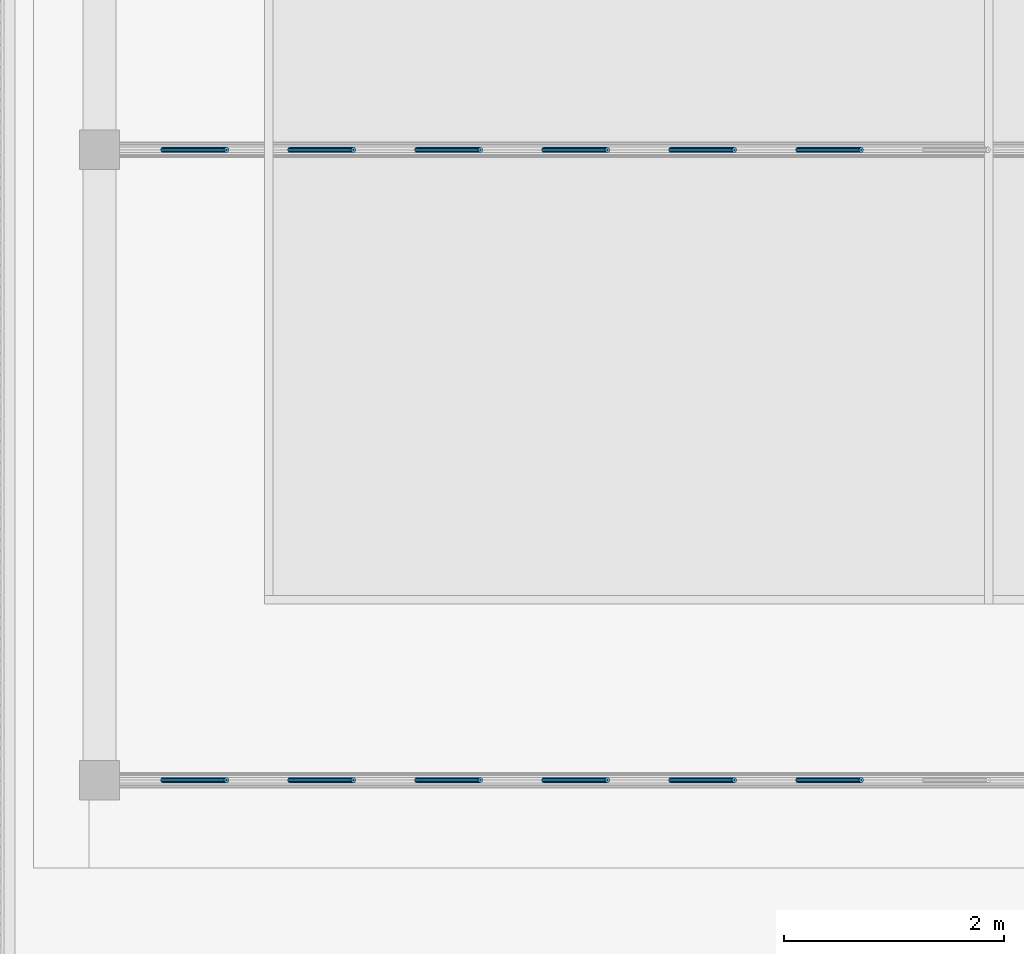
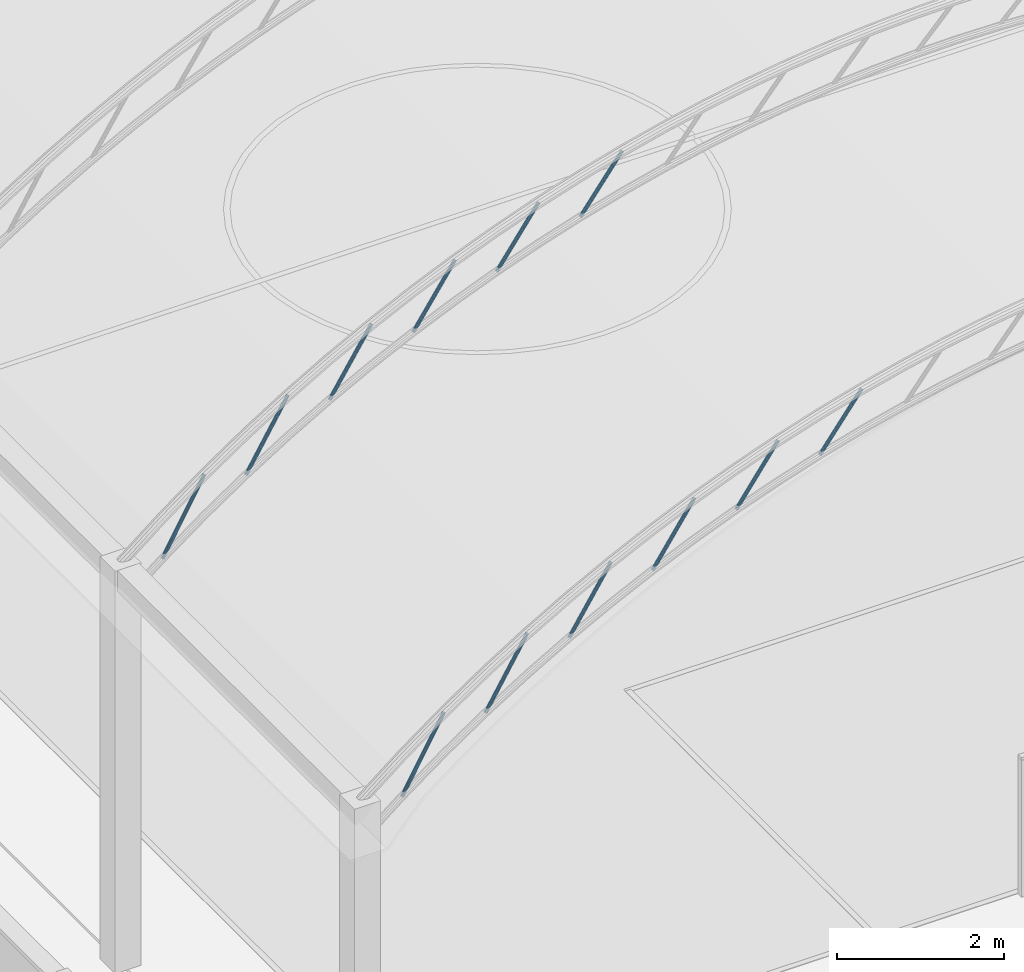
# One storey, part 16 of 151: 12 beams.
"""IFC2X3 building model written with IfcOpenShell, lengths in metres."""

from ifc_helpers import new_model, si_unit, origin, origin_with_axes, place, context, subcontext, project, spatial, faceted_brep, element, save


model = new_model("IFC2X3")

# Units and contexts
model_context = context("Model", 3, precision=1e-05, world=origin_with_axes())
body_context = subcontext(model_context, "Body", "Model", "MODEL_VIEW")
ifc_project = project(units=[si_unit("LENGTHUNIT", "METRE"), si_unit("AREAUNIT", "SQUARE_METRE"), si_unit("VOLUMEUNIT", "CUBIC_METRE"), si_unit("PLANEANGLEUNIT", "RADIAN")], contexts=[model_context])

# Site, building, storey
site_placement = place(None, origin_with_axes())
site = spatial("IfcSite", under=ifc_project, at=site_placement, Name="Predio Los Mangos - Morales, San Martín", CompositionType="ELEMENT")
building_placement = place(site_placement, origin())
building = spatial("IfcBuilding", under=site, at=building_placement, Name="Hogar de Refugio Temporal", CompositionType="ELEMENT")
storey_placement = place(building_placement, origin())
storey = spatial("IfcBuildingStorey", under=building, at=storey_placement, Name="NIVEL 1 (NPT +0.00)", CompositionType="ELEMENT", Elevation=0.0)

# Beams
beam_1_placement = place(storey_placement, origin())
element("IfcBeam", 1, at=beam_1_placement, inside=storey, Name="diag", ObjectType="Viga", context=body_context, shape_type="Brep", body=[
    faceted_brep([(4.0666, 92.6217, 5.8202), (4.6441, 92.6217, 6.8469), (4.655, 92.625, 6.8408), (4.0775, 92.625, 5.8141), (4.0586, 92.6125, 5.8247), (4.6361, 92.6125, 6.8514), (4.0557, 92.6, 5.8263), (4.6332, 92.6, 6.8531), (4.0586, 92.5875, 5.8247), (4.6361, 92.5875, 6.8514), (4.0666, 92.5783, 5.8202), (4.6441, 92.5783, 6.8469), (4.0775, 92.575, 5.8141), (4.655, 92.575, 6.8408), (4.0884, 92.5783, 5.808), (4.6659, 92.5783, 6.8347), (4.0964, 92.5875, 5.8035), (4.6739, 92.5875, 6.8302), (4.0993, 92.6, 5.8018), (4.6768, 92.6, 6.8286), (4.0964, 92.6125, 5.8035), (4.6739, 92.6125, 6.8302), (4.0884, 92.6217, 5.808), (4.6659, 92.6217, 6.8347), (4.0756, 92.6037, 5.8151), (4.0775, 92.6043, 5.8141), (4.655, 92.6043, 6.8408), (4.6531, 92.6037, 6.8419), (4.0743, 92.6021, 5.8159), (4.6518, 92.6021, 6.8426), (4.0738, 92.6, 5.8162), (4.6513, 92.6, 6.8429), (4.0743, 92.5979, 5.8159), (4.6518, 92.5979, 6.8426), (4.0756, 92.5963, 5.8151), (4.6531, 92.5963, 6.8419), (4.0775, 92.5957, 5.8141), (4.655, 92.5957, 6.8408), (4.0794, 92.5963, 5.813), (4.6569, 92.5963, 6.8398), (4.0807, 92.5979, 5.8123), (4.6582, 92.5979, 6.839), (4.0812, 92.6, 5.812), (4.6587, 92.6, 6.8387), (4.0807, 92.6021, 5.8123), (4.6582, 92.6021, 6.839), (4.0794, 92.6037, 5.813), (4.6569, 92.6037, 6.8398)], [[[0, 1, 2, 3]], [[4, 5, 1, 0]], [[6, 7, 5, 4]], [[8, 9, 7, 6]], [[10, 11, 9, 8]], [[12, 13, 11, 10]], [[14, 15, 13, 12]], [[16, 17, 15, 14]], [[18, 19, 17, 16]], [[20, 21, 19, 18]], [[22, 23, 21, 20]], [[3, 2, 23, 22]], [[24, 25, 26, 27]], [[28, 24, 27, 29]], [[30, 28, 29, 31]], [[32, 30, 31, 33]], [[34, 32, 33, 35]], [[36, 34, 35, 37]], [[38, 36, 37, 39]], [[40, 38, 39, 41]], [[42, 40, 41, 43]], [[44, 42, 43, 45]], [[46, 44, 45, 47]], [[25, 46, 47, 26]], [[12, 10, 34, 36]], [[22, 20, 44, 46]], [[5, 7, 31, 29]], [[15, 17, 41, 39]], [[2, 1, 27, 26]], [[8, 6, 30, 32]], [[18, 16, 40, 42]], [[11, 13, 37, 35]], [[21, 23, 47, 45]], [[4, 0, 24, 28]], [[14, 12, 36, 38]], [[3, 22, 46, 25]], [[7, 9, 33, 31]], [[17, 19, 43, 41]], [[23, 2, 26, 47]], [[10, 8, 32, 34]], [[20, 18, 42, 44]], [[1, 5, 29, 27]], [[13, 15, 39, 37]], [[6, 4, 28, 30]], [[16, 14, 38, 40]], [[0, 3, 25, 24]], [[9, 11, 35, 33]], [[19, 21, 45, 43]]]),
])
beam_2_placement = place(storey_placement, origin())
element("IfcBeam", 2, at=beam_2_placement, inside=storey, Name="diag", ObjectType="Viga", context=body_context, shape_type="Brep", body=[
    faceted_brep([(5.2218, 92.6217, 6.6398), (5.7993, 92.6217, 7.6007), (5.81, 92.625, 7.5943), (5.2325, 92.625, 6.6333), (5.2139, 92.6125, 6.6445), (5.7914, 92.6125, 7.6055), (5.2111, 92.6, 6.6462), (5.7886, 92.6, 7.6072), (5.2139, 92.5875, 6.6445), (5.7914, 92.5875, 7.6055), (5.2218, 92.5783, 6.6398), (5.7993, 92.5783, 7.6007), (5.2325, 92.575, 6.6333), (5.81, 92.575, 7.5943), (5.2432, 92.5783, 6.6269), (5.8207, 92.5783, 7.5879), (5.2511, 92.5875, 6.6222), (5.8286, 92.5875, 7.5832), (5.2539, 92.6, 6.6205), (5.8314, 92.6, 7.5814), (5.2511, 92.6125, 6.6222), (5.8286, 92.6125, 7.5832), (5.2432, 92.6217, 6.6269), (5.8207, 92.6217, 7.5879), (5.2307, 92.6037, 6.6345), (5.2325, 92.6043, 6.6333), (5.81, 92.6043, 7.5943), (5.8082, 92.6037, 7.5954), (5.2293, 92.6021, 6.6353), (5.8068, 92.6021, 7.5962), (5.2288, 92.6, 6.6356), (5.8063, 92.6, 7.5965), (5.2293, 92.5979, 6.6353), (5.8068, 92.5979, 7.5962), (5.2307, 92.5963, 6.6345), (5.8082, 92.5963, 7.5954), (5.2325, 92.5957, 6.6333), (5.81, 92.5957, 7.5943), (5.2343, 92.5963, 6.6322), (5.8118, 92.5963, 7.5932), (5.2357, 92.5979, 6.6314), (5.8132, 92.5979, 7.5924), (5.2362, 92.6, 6.6311), (5.8137, 92.6, 7.5921), (5.2357, 92.6021, 6.6314), (5.8132, 92.6021, 7.5924), (5.2343, 92.6037, 6.6322), (5.8118, 92.6037, 7.5932)], [[[0, 1, 2, 3]], [[4, 5, 1, 0]], [[6, 7, 5, 4]], [[8, 9, 7, 6]], [[10, 11, 9, 8]], [[12, 13, 11, 10]], [[14, 15, 13, 12]], [[16, 17, 15, 14]], [[18, 19, 17, 16]], [[20, 21, 19, 18]], [[22, 23, 21, 20]], [[3, 2, 23, 22]], [[24, 25, 26, 27]], [[28, 24, 27, 29]], [[30, 28, 29, 31]], [[32, 30, 31, 33]], [[34, 32, 33, 35]], [[36, 34, 35, 37]], [[38, 36, 37, 39]], [[40, 38, 39, 41]], [[42, 40, 41, 43]], [[44, 42, 43, 45]], [[46, 44, 45, 47]], [[25, 46, 47, 26]], [[12, 10, 34, 36]], [[22, 20, 44, 46]], [[5, 7, 31, 29]], [[15, 17, 41, 39]], [[2, 1, 27, 26]], [[8, 6, 30, 32]], [[18, 16, 40, 42]], [[11, 13, 37, 35]], [[21, 23, 47, 45]], [[4, 0, 24, 28]], [[14, 12, 36, 38]], [[3, 22, 46, 25]], [[7, 9, 33, 31]], [[17, 19, 43, 41]], [[23, 2, 26, 47]], [[10, 8, 32, 34]], [[20, 18, 42, 44]], [[1, 5, 29, 27]], [[13, 15, 39, 37]], [[6, 4, 28, 30]], [[16, 14, 38, 40]], [[0, 3, 25, 24]], [[9, 11, 35, 33]], [[19, 21, 45, 43]]]),
])
beam_3_placement = place(storey_placement, origin())
element("IfcBeam", 3, at=beam_3_placement, inside=storey, Name="diag", ObjectType="Viga", context=body_context, shape_type="Brep", body=[
    faceted_brep([(6.377, 92.6217, 7.3326), (6.9545, 92.6217, 8.2366), (6.965, 92.625, 8.2298), (6.3875, 92.625, 7.3259), (6.3693, 92.6125, 7.3375), (6.9468, 92.6125, 8.2415), (6.3664, 92.6, 7.3393), (6.9439, 92.6, 8.2433), (6.3693, 92.5875, 7.3375), (6.9468, 92.5875, 8.2415), (6.377, 92.5783, 7.3326), (6.9545, 92.5783, 8.2366), (6.3875, 92.575, 7.3259), (6.965, 92.575, 8.2298), (6.398, 92.5783, 7.3191), (6.9755, 92.5783, 8.2231), (6.4057, 92.5875, 7.3142), (6.9832, 92.5875, 8.2182), (6.4086, 92.6, 7.3124), (6.9861, 92.6, 8.2164), (6.4057, 92.6125, 7.3142), (6.9832, 92.6125, 8.2182), (6.398, 92.6217, 7.3191), (6.9755, 92.6217, 8.2231), (6.3857, 92.6037, 7.327), (6.3875, 92.6043, 7.3259), (6.965, 92.6043, 8.2298), (6.9632, 92.6037, 8.231), (6.3844, 92.6021, 7.3279), (6.9619, 92.6021, 8.2318), (6.3839, 92.6, 7.3282), (6.9614, 92.6, 8.2321), (6.3844, 92.5979, 7.3279), (6.9619, 92.5979, 8.2318), (6.3857, 92.5963, 7.327), (6.9632, 92.5963, 8.231), (6.3875, 92.5957, 7.3259), (6.965, 92.5957, 8.2298), (6.3893, 92.5963, 7.3247), (6.9668, 92.5963, 8.2287), (6.3906, 92.5979, 7.3239), (6.9681, 92.5979, 8.2278), (6.3911, 92.6, 7.3235), (6.9686, 92.6, 8.2275), (6.3906, 92.6021, 7.3239), (6.9681, 92.6021, 8.2278), (6.3893, 92.6037, 7.3247), (6.9668, 92.6037, 8.2287)], [[[0, 1, 2, 3]], [[4, 5, 1, 0]], [[6, 7, 5, 4]], [[8, 9, 7, 6]], [[10, 11, 9, 8]], [[12, 13, 11, 10]], [[14, 15, 13, 12]], [[16, 17, 15, 14]], [[18, 19, 17, 16]], [[20, 21, 19, 18]], [[22, 23, 21, 20]], [[3, 2, 23, 22]], [[24, 25, 26, 27]], [[28, 24, 27, 29]], [[30, 28, 29, 31]], [[32, 30, 31, 33]], [[34, 32, 33, 35]], [[36, 34, 35, 37]], [[38, 36, 37, 39]], [[40, 38, 39, 41]], [[42, 40, 41, 43]], [[44, 42, 43, 45]], [[46, 44, 45, 47]], [[25, 46, 47, 26]], [[12, 10, 34, 36]], [[22, 20, 44, 46]], [[5, 7, 31, 29]], [[15, 17, 41, 39]], [[2, 1, 27, 26]], [[8, 6, 30, 32]], [[18, 16, 40, 42]], [[11, 13, 37, 35]], [[21, 23, 47, 45]], [[4, 0, 24, 28]], [[14, 12, 36, 38]], [[3, 22, 46, 25]], [[7, 9, 33, 31]], [[17, 19, 43, 41]], [[23, 2, 26, 47]], [[10, 8, 32, 34]], [[20, 18, 42, 44]], [[1, 5, 29, 27]], [[13, 15, 39, 37]], [[6, 4, 28, 30]], [[16, 14, 38, 40]], [[0, 3, 25, 24]], [[9, 11, 35, 33]], [[19, 21, 45, 43]]]),
])
beam_4_placement = place(storey_placement, origin())
element("IfcBeam", 4, at=beam_4_placement, inside=storey, Name="diag", ObjectType="Viga", context=body_context, shape_type="Brep", body=[
    faceted_brep([(7.5321, 92.6217, 7.9148), (8.1096, 92.6217, 8.7679), (8.12, 92.625, 8.7609), (7.5425, 92.625, 7.9077), (7.5246, 92.6125, 7.9199), (8.1021, 92.6125, 8.7731), (7.5218, 92.6, 7.9218), (8.0993, 92.6, 8.7749), (7.5246, 92.5875, 7.9199), (8.1021, 92.5875, 8.7731), (7.5321, 92.5783, 7.9148), (8.1096, 92.5783, 8.7679), (7.5425, 92.575, 7.9077), (8.12, 92.575, 8.7609), (7.5529, 92.5783, 7.9007), (8.1304, 92.5783, 8.7539), (7.5604, 92.5875, 7.8956), (8.1379, 92.5875, 8.7488), (7.5632, 92.6, 7.8937), (8.1407, 92.6, 8.7469), (7.5604, 92.6125, 7.8956), (8.1379, 92.6125, 8.7488), (7.5529, 92.6217, 7.9007), (8.1304, 92.6217, 8.7539), (7.5407, 92.6037, 7.9089), (7.5425, 92.6043, 7.9077), (8.12, 92.6043, 8.7609), (8.1182, 92.6037, 8.7621), (7.5394, 92.6021, 7.9098), (8.1169, 92.6021, 8.763), (7.5389, 92.6, 7.9102), (8.1164, 92.6, 8.7633), (7.5394, 92.5979, 7.9098), (8.1169, 92.5979, 8.763), (7.5407, 92.5963, 7.9089), (8.1182, 92.5963, 8.7621), (7.5425, 92.5957, 7.9077), (8.12, 92.5957, 8.7609), (7.5443, 92.5963, 7.9065), (8.1218, 92.5963, 8.7597), (7.5456, 92.5979, 7.9057), (8.1231, 92.5979, 8.7588), (7.5461, 92.6, 7.9053), (8.1236, 92.6, 8.7585), (7.5456, 92.6021, 7.9057), (8.1231, 92.6021, 8.7588), (7.5443, 92.6037, 7.9065), (8.1218, 92.6037, 8.7597)], [[[0, 1, 2, 3]], [[4, 5, 1, 0]], [[6, 7, 5, 4]], [[8, 9, 7, 6]], [[10, 11, 9, 8]], [[12, 13, 11, 10]], [[14, 15, 13, 12]], [[16, 17, 15, 14]], [[18, 19, 17, 16]], [[20, 21, 19, 18]], [[22, 23, 21, 20]], [[3, 2, 23, 22]], [[24, 25, 26, 27]], [[28, 24, 27, 29]], [[30, 28, 29, 31]], [[32, 30, 31, 33]], [[34, 32, 33, 35]], [[36, 34, 35, 37]], [[38, 36, 37, 39]], [[40, 38, 39, 41]], [[42, 40, 41, 43]], [[44, 42, 43, 45]], [[46, 44, 45, 47]], [[25, 46, 47, 26]], [[12, 10, 34, 36]], [[22, 20, 44, 46]], [[5, 7, 31, 29]], [[15, 17, 41, 39]], [[2, 1, 27, 26]], [[8, 6, 30, 32]], [[18, 16, 40, 42]], [[11, 13, 37, 35]], [[21, 23, 47, 45]], [[4, 0, 24, 28]], [[14, 12, 36, 38]], [[3, 22, 46, 25]], [[7, 9, 33, 31]], [[17, 19, 43, 41]], [[23, 2, 26, 47]], [[10, 8, 32, 34]], [[20, 18, 42, 44]], [[1, 5, 29, 27]], [[13, 15, 39, 37]], [[6, 4, 28, 30]], [[16, 14, 38, 40]], [[0, 3, 25, 24]], [[9, 11, 35, 33]], [[19, 21, 45, 43]]]),
])
beam_5_placement = place(storey_placement, origin())
element("IfcBeam", 5, at=beam_5_placement, inside=storey, Name="diag", ObjectType="Viga", context=body_context, shape_type="Brep", body=[
    faceted_brep([(8.6873, 92.6217, 8.3978), (9.2648, 92.6217, 9.2047), (9.275, 92.625, 9.1974), (8.6975, 92.625, 8.3905), (8.6799, 92.6125, 8.4031), (9.2574, 92.6125, 9.21), (8.6772, 92.6, 8.405), (9.2547, 92.6, 9.2119), (8.6799, 92.5875, 8.4031), (9.2574, 92.5875, 9.21), (8.6873, 92.5783, 8.3978), (9.2648, 92.5783, 9.2047), (8.6975, 92.575, 8.3905), (9.275, 92.575, 9.1974), (8.7077, 92.5783, 8.3832), (9.2852, 92.5783, 9.1901), (8.7151, 92.5875, 8.3779), (9.2926, 92.5875, 9.1848), (8.7178, 92.6, 8.3759), (9.2953, 92.6, 9.1828), (8.7151, 92.6125, 8.3779), (9.2926, 92.6125, 9.1848), (8.7077, 92.6217, 8.3832), (9.2852, 92.6217, 9.1901), (8.6958, 92.6037, 8.3917), (8.6975, 92.6043, 8.3905), (9.275, 92.6043, 9.1974), (9.2733, 92.6037, 9.1986), (8.6945, 92.6021, 8.3927), (9.272, 92.6021, 9.1996), (8.694, 92.6, 8.393), (9.2715, 92.6, 9.1999), (8.6945, 92.5979, 8.3927), (9.272, 92.5979, 9.1996), (8.6958, 92.5963, 8.3917), (9.2733, 92.5963, 9.1986), (8.6975, 92.5957, 8.3905), (9.275, 92.5957, 9.1974), (8.6992, 92.5963, 8.3892), (9.2767, 92.5963, 9.1961), (8.7005, 92.5979, 8.3883), (9.278, 92.5979, 9.1952), (8.701, 92.6, 8.388), (9.2785, 92.6, 9.1949), (8.7005, 92.6021, 8.3883), (9.278, 92.6021, 9.1952), (8.6992, 92.6037, 8.3892), (9.2767, 92.6037, 9.1961)], [[[0, 1, 2, 3]], [[4, 5, 1, 0]], [[6, 7, 5, 4]], [[8, 9, 7, 6]], [[10, 11, 9, 8]], [[12, 13, 11, 10]], [[14, 15, 13, 12]], [[16, 17, 15, 14]], [[18, 19, 17, 16]], [[20, 21, 19, 18]], [[22, 23, 21, 20]], [[3, 2, 23, 22]], [[24, 25, 26, 27]], [[28, 24, 27, 29]], [[30, 28, 29, 31]], [[32, 30, 31, 33]], [[34, 32, 33, 35]], [[36, 34, 35, 37]], [[38, 36, 37, 39]], [[40, 38, 39, 41]], [[42, 40, 41, 43]], [[44, 42, 43, 45]], [[46, 44, 45, 47]], [[25, 46, 47, 26]], [[12, 10, 34, 36]], [[22, 20, 44, 46]], [[5, 7, 31, 29]], [[15, 17, 41, 39]], [[2, 1, 27, 26]], [[8, 6, 30, 32]], [[18, 16, 40, 42]], [[11, 13, 37, 35]], [[21, 23, 47, 45]], [[4, 0, 24, 28]], [[14, 12, 36, 38]], [[3, 22, 46, 25]], [[7, 9, 33, 31]], [[17, 19, 43, 41]], [[23, 2, 26, 47]], [[10, 8, 32, 34]], [[20, 18, 42, 44]], [[1, 5, 29, 27]], [[13, 15, 39, 37]], [[6, 4, 28, 30]], [[16, 14, 38, 40]], [[0, 3, 25, 24]], [[9, 11, 35, 33]], [[19, 21, 45, 43]]]),
])
beam_6_placement = place(storey_placement, origin())
element("IfcBeam", 6, at=beam_6_placement, inside=storey, Name="diag", ObjectType="Viga", context=body_context, shape_type="Brep", body=[
    faceted_brep([(9.8425, 92.6217, 8.79), (10.42, 92.6217, 9.5539), (10.43, 92.625, 9.5463), (9.8525, 92.625, 8.7824), (9.8352, 92.6125, 8.7955), (10.4127, 92.6125, 9.5594), (9.8326, 92.6, 8.7975), (10.4101, 92.6, 9.5614), (9.8352, 92.5875, 8.7955), (10.4127, 92.5875, 9.5594), (9.8425, 92.5783, 8.79), (10.42, 92.5783, 9.5539), (9.8525, 92.575, 8.7824), (10.43, 92.575, 9.5463), (9.8625, 92.5783, 8.7749), (10.44, 92.5783, 9.5388), (9.8698, 92.5875, 8.7694), (10.4473, 92.5875, 9.5333), (9.8724, 92.6, 8.7674), (10.4499, 92.6, 9.5313), (9.8698, 92.6125, 8.7694), (10.4473, 92.6125, 9.5333), (9.8625, 92.6217, 8.7749), (10.44, 92.6217, 9.5388), (9.8508, 92.6037, 8.7837), (9.8525, 92.6043, 8.7824), (10.43, 92.6043, 9.5463), (10.4283, 92.6037, 9.5476), (9.8495, 92.6021, 8.7847), (10.427, 92.6021, 9.5486), (9.8491, 92.6, 8.785), (10.4266, 92.6, 9.5489), (9.8495, 92.5979, 8.7847), (10.427, 92.5979, 9.5486), (9.8508, 92.5963, 8.7837), (10.4283, 92.5963, 9.5476), (9.8525, 92.5957, 8.7824), (10.43, 92.5957, 9.5463), (9.8542, 92.5963, 8.7812), (10.4317, 92.5963, 9.5451), (9.8555, 92.5979, 8.7802), (10.433, 92.5979, 9.5441), (9.8559, 92.6, 8.7799), (10.4334, 92.6, 9.5438), (9.8555, 92.6021, 8.7802), (10.433, 92.6021, 9.5441), (9.8542, 92.6037, 8.7812), (10.4317, 92.6037, 9.5451)], [[[0, 1, 2, 3]], [[4, 5, 1, 0]], [[6, 7, 5, 4]], [[8, 9, 7, 6]], [[10, 11, 9, 8]], [[12, 13, 11, 10]], [[14, 15, 13, 12]], [[16, 17, 15, 14]], [[18, 19, 17, 16]], [[20, 21, 19, 18]], [[22, 23, 21, 20]], [[3, 2, 23, 22]], [[24, 25, 26, 27]], [[28, 24, 27, 29]], [[30, 28, 29, 31]], [[32, 30, 31, 33]], [[34, 32, 33, 35]], [[36, 34, 35, 37]], [[38, 36, 37, 39]], [[40, 38, 39, 41]], [[42, 40, 41, 43]], [[44, 42, 43, 45]], [[46, 44, 45, 47]], [[25, 46, 47, 26]], [[12, 10, 34, 36]], [[22, 20, 44, 46]], [[5, 7, 31, 29]], [[15, 17, 41, 39]], [[2, 1, 27, 26]], [[8, 6, 30, 32]], [[18, 16, 40, 42]], [[11, 13, 37, 35]], [[21, 23, 47, 45]], [[4, 0, 24, 28]], [[14, 12, 36, 38]], [[3, 22, 46, 25]], [[7, 9, 33, 31]], [[17, 19, 43, 41]], [[23, 2, 26, 47]], [[10, 8, 32, 34]], [[20, 18, 42, 44]], [[1, 5, 29, 27]], [[13, 15, 39, 37]], [[6, 4, 28, 30]], [[16, 14, 38, 40]], [[0, 3, 25, 24]], [[9, 11, 35, 33]], [[19, 21, 45, 43]]]),
])
beam_7_placement = place(storey_placement, origin())
element("IfcBeam", 7, at=beam_7_placement, inside=storey, Name="diag", ObjectType="Viga", context=body_context, shape_type="Brep", body=[
    faceted_brep([(4.0666, 98.355, 5.8202), (4.6441, 98.355, 6.8469), (4.655, 98.3583, 6.8408), (4.0775, 98.3583, 5.8141), (4.0586, 98.3458, 5.8247), (4.6361, 98.3458, 6.8514), (4.0557, 98.3333, 5.8263), (4.6332, 98.3333, 6.8531), (4.0586, 98.3208, 5.8247), (4.6361, 98.3208, 6.8514), (4.0666, 98.3117, 5.8202), (4.6441, 98.3117, 6.8469), (4.0775, 98.3083, 5.8141), (4.655, 98.3083, 6.8408), (4.0884, 98.3117, 5.808), (4.6659, 98.3117, 6.8347), (4.0964, 98.3208, 5.8035), (4.6739, 98.3208, 6.8302), (4.0993, 98.3333, 5.8018), (4.6768, 98.3333, 6.8286), (4.0964, 98.3458, 5.8035), (4.6739, 98.3458, 6.8302), (4.0884, 98.355, 5.808), (4.6659, 98.355, 6.8347), (4.0756, 98.3371, 5.8151), (4.0775, 98.3376, 5.8141), (4.655, 98.3376, 6.8408), (4.6531, 98.3371, 6.8419), (4.0743, 98.3355, 5.8159), (4.6518, 98.3355, 6.8426), (4.0738, 98.3333, 5.8162), (4.6513, 98.3333, 6.8429), (4.0743, 98.3312, 5.8159), (4.6518, 98.3312, 6.8426), (4.0756, 98.3296, 5.8151), (4.6531, 98.3296, 6.8419), (4.0775, 98.329, 5.8141), (4.655, 98.329, 6.8408), (4.0794, 98.3296, 5.813), (4.6569, 98.3296, 6.8398), (4.0807, 98.3312, 5.8123), (4.6582, 98.3312, 6.839), (4.0812, 98.3333, 5.812), (4.6587, 98.3333, 6.8387), (4.0807, 98.3355, 5.8123), (4.6582, 98.3355, 6.839), (4.0794, 98.3371, 5.813), (4.6569, 98.3371, 6.8398)], [[[0, 1, 2, 3]], [[4, 5, 1, 0]], [[6, 7, 5, 4]], [[8, 9, 7, 6]], [[10, 11, 9, 8]], [[12, 13, 11, 10]], [[14, 15, 13, 12]], [[16, 17, 15, 14]], [[18, 19, 17, 16]], [[20, 21, 19, 18]], [[22, 23, 21, 20]], [[3, 2, 23, 22]], [[24, 25, 26, 27]], [[28, 24, 27, 29]], [[30, 28, 29, 31]], [[32, 30, 31, 33]], [[34, 32, 33, 35]], [[36, 34, 35, 37]], [[38, 36, 37, 39]], [[40, 38, 39, 41]], [[42, 40, 41, 43]], [[44, 42, 43, 45]], [[46, 44, 45, 47]], [[25, 46, 47, 26]], [[12, 10, 34, 36]], [[22, 20, 44, 46]], [[5, 7, 31, 29]], [[15, 17, 41, 39]], [[2, 1, 27, 26]], [[8, 6, 30, 32]], [[18, 16, 40, 42]], [[11, 13, 37, 35]], [[21, 23, 47, 45]], [[4, 0, 24, 28]], [[14, 12, 36, 38]], [[3, 22, 46, 25]], [[7, 9, 33, 31]], [[17, 19, 43, 41]], [[23, 2, 26, 47]], [[10, 8, 32, 34]], [[20, 18, 42, 44]], [[1, 5, 29, 27]], [[13, 15, 39, 37]], [[6, 4, 28, 30]], [[16, 14, 38, 40]], [[0, 3, 25, 24]], [[9, 11, 35, 33]], [[19, 21, 45, 43]]]),
])
beam_8_placement = place(storey_placement, origin())
element("IfcBeam", 8, at=beam_8_placement, inside=storey, Name="diag", ObjectType="Viga", context=body_context, shape_type="Brep", body=[
    faceted_brep([(5.2218, 98.355, 6.6398), (5.7993, 98.355, 7.6007), (5.81, 98.3583, 7.5943), (5.2325, 98.3583, 6.6333), (5.2139, 98.3458, 6.6445), (5.7914, 98.3458, 7.6055), (5.2111, 98.3333, 6.6462), (5.7886, 98.3333, 7.6072), (5.2139, 98.3208, 6.6445), (5.7914, 98.3208, 7.6055), (5.2218, 98.3117, 6.6398), (5.7993, 98.3117, 7.6007), (5.2325, 98.3083, 6.6333), (5.81, 98.3083, 7.5943), (5.2432, 98.3117, 6.6269), (5.8207, 98.3117, 7.5879), (5.2511, 98.3208, 6.6222), (5.8286, 98.3208, 7.5832), (5.2539, 98.3333, 6.6205), (5.8314, 98.3333, 7.5814), (5.2511, 98.3458, 6.6222), (5.8286, 98.3458, 7.5832), (5.2432, 98.355, 6.6269), (5.8207, 98.355, 7.5879), (5.2307, 98.3371, 6.6345), (5.2325, 98.3376, 6.6333), (5.81, 98.3376, 7.5943), (5.8082, 98.3371, 7.5954), (5.2293, 98.3355, 6.6353), (5.8068, 98.3355, 7.5962), (5.2288, 98.3333, 6.6356), (5.8063, 98.3333, 7.5965), (5.2293, 98.3312, 6.6353), (5.8068, 98.3312, 7.5962), (5.2307, 98.3296, 6.6345), (5.8082, 98.3296, 7.5954), (5.2325, 98.329, 6.6333), (5.81, 98.329, 7.5943), (5.2343, 98.3296, 6.6322), (5.8118, 98.3296, 7.5932), (5.2357, 98.3312, 6.6314), (5.8132, 98.3312, 7.5924), (5.2362, 98.3333, 6.6311), (5.8137, 98.3333, 7.5921), (5.2357, 98.3355, 6.6314), (5.8132, 98.3355, 7.5924), (5.2343, 98.3371, 6.6322), (5.8118, 98.3371, 7.5932)], [[[0, 1, 2, 3]], [[4, 5, 1, 0]], [[6, 7, 5, 4]], [[8, 9, 7, 6]], [[10, 11, 9, 8]], [[12, 13, 11, 10]], [[14, 15, 13, 12]], [[16, 17, 15, 14]], [[18, 19, 17, 16]], [[20, 21, 19, 18]], [[22, 23, 21, 20]], [[3, 2, 23, 22]], [[24, 25, 26, 27]], [[28, 24, 27, 29]], [[30, 28, 29, 31]], [[32, 30, 31, 33]], [[34, 32, 33, 35]], [[36, 34, 35, 37]], [[38, 36, 37, 39]], [[40, 38, 39, 41]], [[42, 40, 41, 43]], [[44, 42, 43, 45]], [[46, 44, 45, 47]], [[25, 46, 47, 26]], [[12, 10, 34, 36]], [[22, 20, 44, 46]], [[5, 7, 31, 29]], [[15, 17, 41, 39]], [[2, 1, 27, 26]], [[8, 6, 30, 32]], [[18, 16, 40, 42]], [[11, 13, 37, 35]], [[21, 23, 47, 45]], [[4, 0, 24, 28]], [[14, 12, 36, 38]], [[3, 22, 46, 25]], [[7, 9, 33, 31]], [[17, 19, 43, 41]], [[23, 2, 26, 47]], [[10, 8, 32, 34]], [[20, 18, 42, 44]], [[1, 5, 29, 27]], [[13, 15, 39, 37]], [[6, 4, 28, 30]], [[16, 14, 38, 40]], [[0, 3, 25, 24]], [[9, 11, 35, 33]], [[19, 21, 45, 43]]]),
])
beam_9_placement = place(storey_placement, origin())
element("IfcBeam", 9, at=beam_9_placement, inside=storey, Name="diag", ObjectType="Viga", context=body_context, shape_type="Brep", body=[
    faceted_brep([(6.377, 98.355, 7.3326), (6.9545, 98.355, 8.2366), (6.965, 98.3583, 8.2298), (6.3875, 98.3583, 7.3259), (6.3693, 98.3458, 7.3375), (6.9468, 98.3458, 8.2415), (6.3664, 98.3333, 7.3393), (6.9439, 98.3333, 8.2433), (6.3693, 98.3208, 7.3375), (6.9468, 98.3208, 8.2415), (6.377, 98.3117, 7.3326), (6.9545, 98.3117, 8.2366), (6.3875, 98.3083, 7.3259), (6.965, 98.3083, 8.2298), (6.398, 98.3117, 7.3191), (6.9755, 98.3117, 8.2231), (6.4057, 98.3208, 7.3142), (6.9832, 98.3208, 8.2182), (6.4086, 98.3333, 7.3124), (6.9861, 98.3333, 8.2164), (6.4057, 98.3458, 7.3142), (6.9832, 98.3458, 8.2182), (6.398, 98.355, 7.3191), (6.9755, 98.355, 8.2231), (6.3857, 98.3371, 7.327), (6.3875, 98.3376, 7.3259), (6.965, 98.3376, 8.2298), (6.9632, 98.3371, 8.231), (6.3844, 98.3355, 7.3279), (6.9619, 98.3355, 8.2318), (6.3839, 98.3333, 7.3282), (6.9614, 98.3333, 8.2321), (6.3844, 98.3312, 7.3279), (6.9619, 98.3312, 8.2318), (6.3857, 98.3296, 7.327), (6.9632, 98.3296, 8.231), (6.3875, 98.329, 7.3259), (6.965, 98.329, 8.2298), (6.3893, 98.3296, 7.3247), (6.9668, 98.3296, 8.2287), (6.3906, 98.3312, 7.3239), (6.9681, 98.3312, 8.2278), (6.3911, 98.3333, 7.3235), (6.9686, 98.3333, 8.2275), (6.3906, 98.3355, 7.3239), (6.9681, 98.3355, 8.2278), (6.3893, 98.3371, 7.3247), (6.9668, 98.3371, 8.2287)], [[[0, 1, 2, 3]], [[4, 5, 1, 0]], [[6, 7, 5, 4]], [[8, 9, 7, 6]], [[10, 11, 9, 8]], [[12, 13, 11, 10]], [[14, 15, 13, 12]], [[16, 17, 15, 14]], [[18, 19, 17, 16]], [[20, 21, 19, 18]], [[22, 23, 21, 20]], [[3, 2, 23, 22]], [[24, 25, 26, 27]], [[28, 24, 27, 29]], [[30, 28, 29, 31]], [[32, 30, 31, 33]], [[34, 32, 33, 35]], [[36, 34, 35, 37]], [[38, 36, 37, 39]], [[40, 38, 39, 41]], [[42, 40, 41, 43]], [[44, 42, 43, 45]], [[46, 44, 45, 47]], [[25, 46, 47, 26]], [[12, 10, 34, 36]], [[22, 20, 44, 46]], [[5, 7, 31, 29]], [[15, 17, 41, 39]], [[2, 1, 27, 26]], [[8, 6, 30, 32]], [[18, 16, 40, 42]], [[11, 13, 37, 35]], [[21, 23, 47, 45]], [[4, 0, 24, 28]], [[14, 12, 36, 38]], [[3, 22, 46, 25]], [[7, 9, 33, 31]], [[17, 19, 43, 41]], [[23, 2, 26, 47]], [[10, 8, 32, 34]], [[20, 18, 42, 44]], [[1, 5, 29, 27]], [[13, 15, 39, 37]], [[6, 4, 28, 30]], [[16, 14, 38, 40]], [[0, 3, 25, 24]], [[9, 11, 35, 33]], [[19, 21, 45, 43]]]),
])
beam_10_placement = place(storey_placement, origin())
element("IfcBeam", 10, at=beam_10_placement, inside=storey, Name="diag", ObjectType="Viga", context=body_context, shape_type="Brep", body=[
    faceted_brep([(7.5321, 98.355, 7.9148), (8.1096, 98.355, 8.7679), (8.12, 98.3583, 8.7609), (7.5425, 98.3583, 7.9077), (7.5246, 98.3458, 7.9199), (8.1021, 98.3458, 8.7731), (7.5218, 98.3333, 7.9218), (8.0993, 98.3333, 8.7749), (7.5246, 98.3208, 7.9199), (8.1021, 98.3208, 8.7731), (7.5321, 98.3117, 7.9148), (8.1096, 98.3117, 8.7679), (7.5425, 98.3083, 7.9077), (8.12, 98.3083, 8.7609), (7.5529, 98.3117, 7.9007), (8.1304, 98.3117, 8.7539), (7.5604, 98.3208, 7.8956), (8.1379, 98.3208, 8.7488), (7.5632, 98.3333, 7.8937), (8.1407, 98.3333, 8.7469), (7.5604, 98.3458, 7.8956), (8.1379, 98.3458, 8.7488), (7.5529, 98.355, 7.9007), (8.1304, 98.355, 8.7539), (7.5407, 98.3371, 7.9089), (7.5425, 98.3376, 7.9077), (8.12, 98.3376, 8.7609), (8.1182, 98.3371, 8.7621), (7.5394, 98.3355, 7.9098), (8.1169, 98.3355, 8.763), (7.5389, 98.3333, 7.9102), (8.1164, 98.3333, 8.7633), (7.5394, 98.3312, 7.9098), (8.1169, 98.3312, 8.763), (7.5407, 98.3296, 7.9089), (8.1182, 98.3296, 8.7621), (7.5425, 98.329, 7.9077), (8.12, 98.329, 8.7609), (7.5443, 98.3296, 7.9065), (8.1218, 98.3296, 8.7597), (7.5456, 98.3312, 7.9057), (8.1231, 98.3312, 8.7588), (7.5461, 98.3333, 7.9053), (8.1236, 98.3333, 8.7585), (7.5456, 98.3355, 7.9057), (8.1231, 98.3355, 8.7588), (7.5443, 98.3371, 7.9065), (8.1218, 98.3371, 8.7597)], [[[0, 1, 2, 3]], [[4, 5, 1, 0]], [[6, 7, 5, 4]], [[8, 9, 7, 6]], [[10, 11, 9, 8]], [[12, 13, 11, 10]], [[14, 15, 13, 12]], [[16, 17, 15, 14]], [[18, 19, 17, 16]], [[20, 21, 19, 18]], [[22, 23, 21, 20]], [[3, 2, 23, 22]], [[24, 25, 26, 27]], [[28, 24, 27, 29]], [[30, 28, 29, 31]], [[32, 30, 31, 33]], [[34, 32, 33, 35]], [[36, 34, 35, 37]], [[38, 36, 37, 39]], [[40, 38, 39, 41]], [[42, 40, 41, 43]], [[44, 42, 43, 45]], [[46, 44, 45, 47]], [[25, 46, 47, 26]], [[12, 10, 34, 36]], [[22, 20, 44, 46]], [[5, 7, 31, 29]], [[15, 17, 41, 39]], [[2, 1, 27, 26]], [[8, 6, 30, 32]], [[18, 16, 40, 42]], [[11, 13, 37, 35]], [[21, 23, 47, 45]], [[4, 0, 24, 28]], [[14, 12, 36, 38]], [[3, 22, 46, 25]], [[7, 9, 33, 31]], [[17, 19, 43, 41]], [[23, 2, 26, 47]], [[10, 8, 32, 34]], [[20, 18, 42, 44]], [[1, 5, 29, 27]], [[13, 15, 39, 37]], [[6, 4, 28, 30]], [[16, 14, 38, 40]], [[0, 3, 25, 24]], [[9, 11, 35, 33]], [[19, 21, 45, 43]]]),
])
beam_11_placement = place(storey_placement, origin())
element("IfcBeam", 11, at=beam_11_placement, inside=storey, Name="diag", ObjectType="Viga", context=body_context, shape_type="Brep", body=[
    faceted_brep([(8.6873, 98.355, 8.3978), (9.2648, 98.355, 9.2047), (9.275, 98.3583, 9.1974), (8.6975, 98.3583, 8.3905), (8.6799, 98.3458, 8.4031), (9.2574, 98.3458, 9.21), (8.6772, 98.3333, 8.405), (9.2547, 98.3333, 9.2119), (8.6799, 98.3208, 8.4031), (9.2574, 98.3208, 9.21), (8.6873, 98.3117, 8.3978), (9.2648, 98.3117, 9.2047), (8.6975, 98.3083, 8.3905), (9.275, 98.3083, 9.1974), (8.7077, 98.3117, 8.3832), (9.2852, 98.3117, 9.1901), (8.7151, 98.3208, 8.3779), (9.2926, 98.3208, 9.1848), (8.7178, 98.3333, 8.3759), (9.2953, 98.3333, 9.1828), (8.7151, 98.3458, 8.3779), (9.2926, 98.3458, 9.1848), (8.7077, 98.355, 8.3832), (9.2852, 98.355, 9.1901), (8.6958, 98.3371, 8.3917), (8.6975, 98.3376, 8.3905), (9.275, 98.3376, 9.1974), (9.2733, 98.3371, 9.1986), (8.6945, 98.3355, 8.3927), (9.272, 98.3355, 9.1996), (8.694, 98.3333, 8.393), (9.2715, 98.3333, 9.1999), (8.6945, 98.3312, 8.3927), (9.272, 98.3312, 9.1996), (8.6958, 98.3296, 8.3917), (9.2733, 98.3296, 9.1986), (8.6975, 98.329, 8.3905), (9.275, 98.329, 9.1974), (8.6992, 98.3296, 8.3892), (9.2767, 98.3296, 9.1961), (8.7005, 98.3312, 8.3883), (9.278, 98.3312, 9.1952), (8.701, 98.3333, 8.388), (9.2785, 98.3333, 9.1949), (8.7005, 98.3355, 8.3883), (9.278, 98.3355, 9.1952), (8.6992, 98.3371, 8.3892), (9.2767, 98.3371, 9.1961)], [[[0, 1, 2, 3]], [[4, 5, 1, 0]], [[6, 7, 5, 4]], [[8, 9, 7, 6]], [[10, 11, 9, 8]], [[12, 13, 11, 10]], [[14, 15, 13, 12]], [[16, 17, 15, 14]], [[18, 19, 17, 16]], [[20, 21, 19, 18]], [[22, 23, 21, 20]], [[3, 2, 23, 22]], [[24, 25, 26, 27]], [[28, 24, 27, 29]], [[30, 28, 29, 31]], [[32, 30, 31, 33]], [[34, 32, 33, 35]], [[36, 34, 35, 37]], [[38, 36, 37, 39]], [[40, 38, 39, 41]], [[42, 40, 41, 43]], [[44, 42, 43, 45]], [[46, 44, 45, 47]], [[25, 46, 47, 26]], [[12, 10, 34, 36]], [[22, 20, 44, 46]], [[5, 7, 31, 29]], [[15, 17, 41, 39]], [[2, 1, 27, 26]], [[8, 6, 30, 32]], [[18, 16, 40, 42]], [[11, 13, 37, 35]], [[21, 23, 47, 45]], [[4, 0, 24, 28]], [[14, 12, 36, 38]], [[3, 22, 46, 25]], [[7, 9, 33, 31]], [[17, 19, 43, 41]], [[23, 2, 26, 47]], [[10, 8, 32, 34]], [[20, 18, 42, 44]], [[1, 5, 29, 27]], [[13, 15, 39, 37]], [[6, 4, 28, 30]], [[16, 14, 38, 40]], [[0, 3, 25, 24]], [[9, 11, 35, 33]], [[19, 21, 45, 43]]]),
])
beam_12_placement = place(storey_placement, origin())
element("IfcBeam", 12, at=beam_12_placement, inside=storey, Name="diag", ObjectType="Viga", context=body_context, shape_type="Brep", body=[
    faceted_brep([(9.8425, 98.355, 8.79), (10.42, 98.355, 9.5539), (10.43, 98.3583, 9.5463), (9.8525, 98.3583, 8.7824), (9.8352, 98.3458, 8.7955), (10.4127, 98.3458, 9.5594), (9.8326, 98.3333, 8.7975), (10.4101, 98.3333, 9.5614), (9.8352, 98.3208, 8.7955), (10.4127, 98.3208, 9.5594), (9.8425, 98.3117, 8.79), (10.42, 98.3117, 9.5539), (9.8525, 98.3083, 8.7824), (10.43, 98.3083, 9.5463), (9.8625, 98.3117, 8.7749), (10.44, 98.3117, 9.5388), (9.8698, 98.3208, 8.7694), (10.4473, 98.3208, 9.5333), (9.8724, 98.3333, 8.7674), (10.4499, 98.3333, 9.5313), (9.8698, 98.3458, 8.7694), (10.4473, 98.3458, 9.5333), (9.8625, 98.355, 8.7749), (10.44, 98.355, 9.5388), (9.8508, 98.3371, 8.7837), (9.8525, 98.3376, 8.7824), (10.43, 98.3376, 9.5463), (10.4283, 98.3371, 9.5476), (9.8495, 98.3355, 8.7847), (10.427, 98.3355, 9.5486), (9.8491, 98.3333, 8.785), (10.4266, 98.3333, 9.5489), (9.8495, 98.3312, 8.7847), (10.427, 98.3312, 9.5486), (9.8508, 98.3296, 8.7837), (10.4283, 98.3296, 9.5476), (9.8525, 98.329, 8.7824), (10.43, 98.329, 9.5463), (9.8542, 98.3296, 8.7812), (10.4317, 98.3296, 9.5451), (9.8555, 98.3312, 8.7802), (10.433, 98.3312, 9.5441), (9.8559, 98.3333, 8.7799), (10.4334, 98.3333, 9.5438), (9.8555, 98.3355, 8.7802), (10.433, 98.3355, 9.5441), (9.8542, 98.3371, 8.7812), (10.4317, 98.3371, 9.5451)], [[[0, 1, 2, 3]], [[4, 5, 1, 0]], [[6, 7, 5, 4]], [[8, 9, 7, 6]], [[10, 11, 9, 8]], [[12, 13, 11, 10]], [[14, 15, 13, 12]], [[16, 17, 15, 14]], [[18, 19, 17, 16]], [[20, 21, 19, 18]], [[22, 23, 21, 20]], [[3, 2, 23, 22]], [[24, 25, 26, 27]], [[28, 24, 27, 29]], [[30, 28, 29, 31]], [[32, 30, 31, 33]], [[34, 32, 33, 35]], [[36, 34, 35, 37]], [[38, 36, 37, 39]], [[40, 38, 39, 41]], [[42, 40, 41, 43]], [[44, 42, 43, 45]], [[46, 44, 45, 47]], [[25, 46, 47, 26]], [[12, 10, 34, 36]], [[22, 20, 44, 46]], [[5, 7, 31, 29]], [[15, 17, 41, 39]], [[2, 1, 27, 26]], [[8, 6, 30, 32]], [[18, 16, 40, 42]], [[11, 13, 37, 35]], [[21, 23, 47, 45]], [[4, 0, 24, 28]], [[14, 12, 36, 38]], [[3, 22, 46, 25]], [[7, 9, 33, 31]], [[17, 19, 43, 41]], [[23, 2, 26, 47]], [[10, 8, 32, 34]], [[20, 18, 42, 44]], [[1, 5, 29, 27]], [[13, 15, 39, 37]], [[6, 4, 28, 30]], [[16, 14, 38, 40]], [[0, 3, 25, 24]], [[9, 11, 35, 33]], [[19, 21, 45, 43]]]),
])

save(model, "model.ifc")
